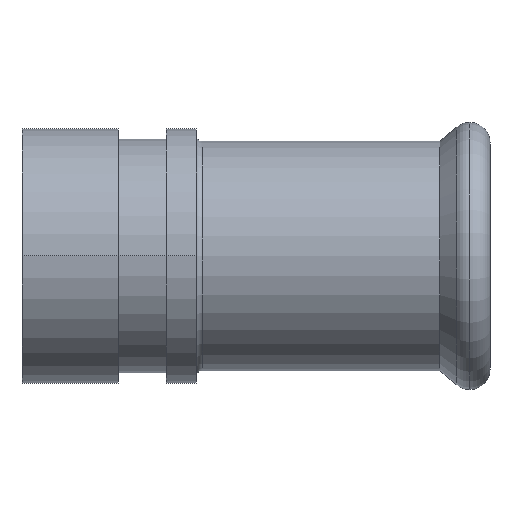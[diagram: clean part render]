
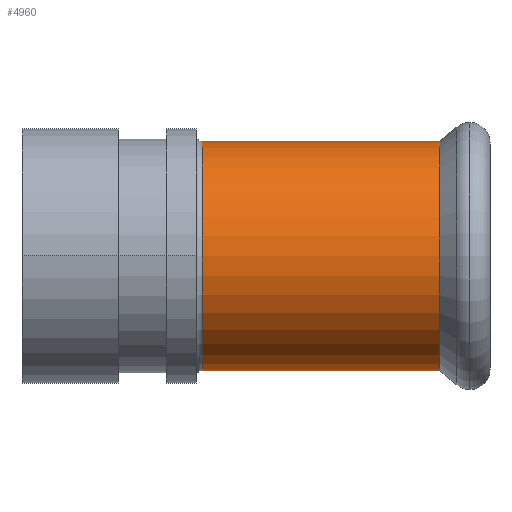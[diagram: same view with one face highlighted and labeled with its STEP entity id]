
A CAD part, top view. The second image highlights one B-rep face of the part: STEP entity #4960.
In plain terms, the highlighted cylindrical face has radius 19.1 mm (diameter 38.2 mm), a partial arc.
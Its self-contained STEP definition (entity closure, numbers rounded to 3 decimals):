
#900=CARTESIAN_POINT('',(524.478,-323.506,
0.));
#910=VERTEX_POINT('',#900);
#1090=CARTESIAN_POINT('',(524.478,-361.706,
0.));
#1100=VERTEX_POINT('',#1090);
#1130=CARTESIAN_POINT('',(524.478,-342.606,
0.));
#1140=DIRECTION('',(1.,0.,0.));
#1150=DIRECTION('',(0.,-1.,0.));
#1160=AXIS2_PLACEMENT_3D('',#1130,#1140,#1150);
#1170=CIRCLE('',#1160,19.1);
#1180=EDGE_CURVE('',#910,#1100,#1170,.T.);
#1350=CARTESIAN_POINT('',(484.871,-323.506,
0.));
#1360=VERTEX_POINT('',#1350);
#1390=CARTESIAN_POINT('',(484.871,-342.606,
0.));
#1400=DIRECTION('',(1.,0.,0.));
#1410=DIRECTION('',(0.,-1.,0.));
#1420=AXIS2_PLACEMENT_3D('',#1390,#1400,#1410);
#1430=CIRCLE('',#1420,19.1);
#1440=CARTESIAN_POINT('',(484.871,-361.706,
0.));
#1450=VERTEX_POINT('',#1440);
#1460=EDGE_CURVE('',#1360,#1450,#1430,.T.);
#4750=CARTESIAN_POINT('',(515.131,-342.606,
0.));
#4760=DIRECTION('',(-1.,0.,0.));
#4770=DIRECTION('',(0.,1.,0.));
#4780=AXIS2_PLACEMENT_3D('',#4750,#4760,#4770);
#4790=CYLINDRICAL_SURFACE('',#4780,19.1);
#4800=CARTESIAN_POINT('',(515.131,-323.506,
0.));
#4810=DIRECTION('',(-1.,0.,0.));
#4820=VECTOR('',#4810,1.);
#4830=LINE('',#4800,#4820);
#4840=EDGE_CURVE('',#910,#1360,#4830,.T.);
#4850=ORIENTED_EDGE('',*,*,#4840,.T.);
#4860=ORIENTED_EDGE('',*,*,#1180,.F.);
#4870=CARTESIAN_POINT('',(515.131,-361.706,
0.));
#4880=DIRECTION('',(-1.,0.,0.));
#4890=VECTOR('',#4880,1.);
#4900=LINE('',#4870,#4890);
#4910=EDGE_CURVE('',#1100,#1450,#4900,.T.);
#4920=ORIENTED_EDGE('',*,*,#4910,.F.);
#4930=ORIENTED_EDGE('',*,*,#1460,.T.);
#4940=EDGE_LOOP('',(#4930,#4920,#4860,#4850));
#4950=FACE_OUTER_BOUND('',#4940,.T.);
#4960=ADVANCED_FACE('',(#4950),#4790,.T.);
